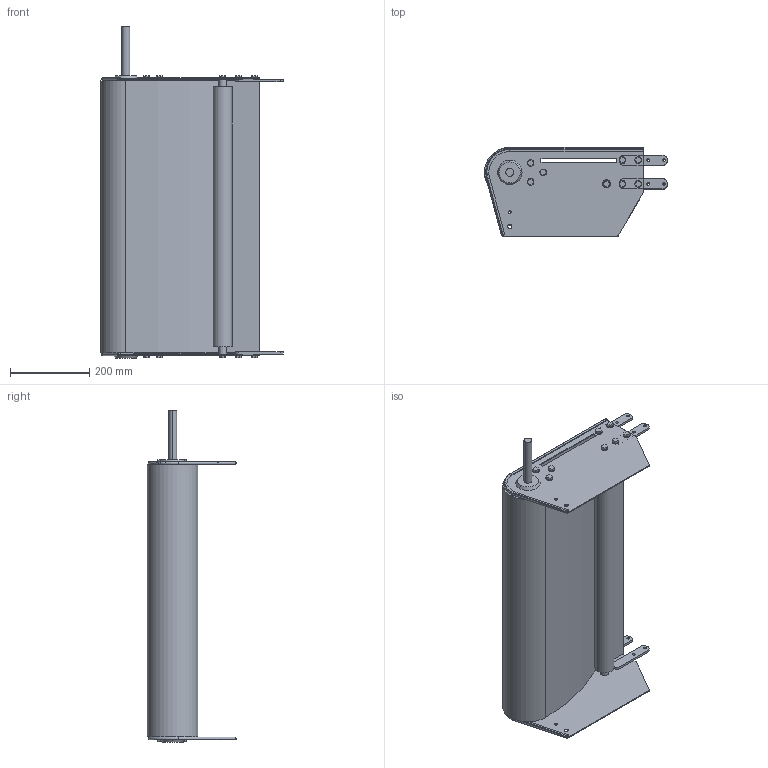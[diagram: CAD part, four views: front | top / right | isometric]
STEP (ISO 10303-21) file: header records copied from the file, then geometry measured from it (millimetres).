
FILE_DESCRIPTION (( 'STEP AP214' ), '1' );
FILE_NAME ('03.102D1L20.700 FS-700-MTS2-100.INOX Directe drive section left.STEP', '2025-02-04T12:36:07', ( '' ), ( '' ), 'SwSTEP 2.0', 'SolidWorks 2024', '' );
FILE_SCHEMA (( 'AUTOMOTIVE_DESIGN' ));
Length unit declared in the file: millimetre
Products named in the file (1): 03.102D1L20.700 FS-700-MTS2-100.INOX Directe drive section left
Bounding box: 461 x 225 x 837 mm (x, y, z)
Volume: 8141816.8 mm3; surface area: 1827579 mm2
Topology: 4 solids, 4 shells, 325 faces, 794 edges, 516 vertices
Faces by surface type: plane 223, cylinder 96, cone 4, torus 2
Entity records: 9602 total; most frequent: DIRECTION 1650, CARTESIAN_POINT 1636, ORIENTED_EDGE 1588, EDGE_CURVE 794, VECTOR 590, LINE 590, AXIS2_PLACEMENT_3D 530, VERTEX_POINT 516
